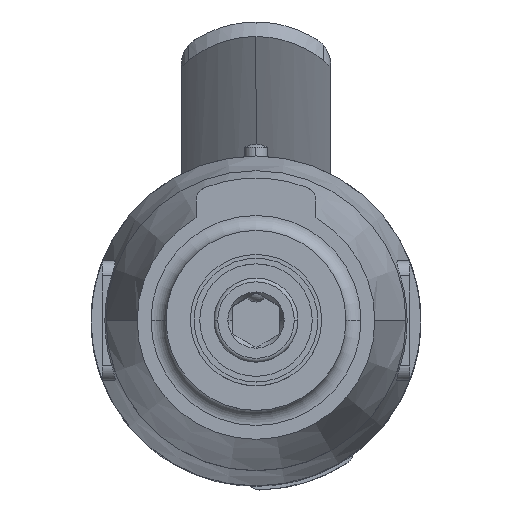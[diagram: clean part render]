
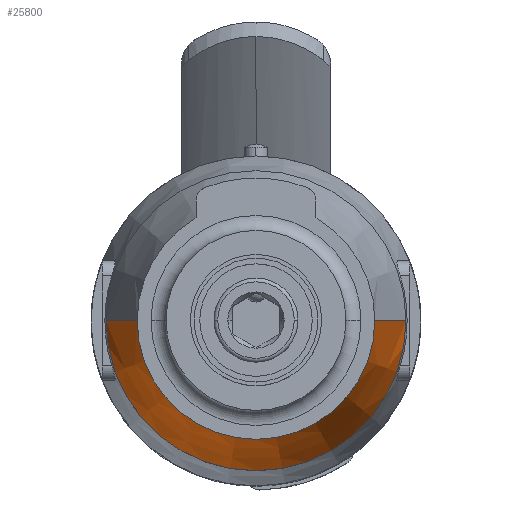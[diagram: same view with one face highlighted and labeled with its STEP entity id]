
A CAD part, top view. The second image highlights one B-rep face of the part: STEP entity #25800.
In plain terms, the highlighted conical face has half-angle 15 degrees and reference radius 20 mm.
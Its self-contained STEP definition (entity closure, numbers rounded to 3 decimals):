
#6569 = CARTESIAN_POINT ( 'NONE',  ( 20., 0., -19.5 ) ) ;
#6575 = CARTESIAN_POINT ( 'NONE',  ( -20., 0., -19.5 ) ) ;
#6720 = CARTESIAN_POINT ( 'NONE',  ( -15.847, 0., -4. ) ) ;
#6721 = DIRECTION ( 'NONE',  ( -0.259, 0., -0.966 ) ) ;
#6722 = VECTOR ( 'NONE', #6721, 1000. ) ;
#6723 = CARTESIAN_POINT ( 'NONE',  ( -20., 0., -19.5 ) ) ;
#6724 = LINE ( 'NONE', #6723, #6722 ) ;
#6725 = DIRECTION ( 'NONE',  ( 0.259, 0., -0.966 ) ) ;
#6726 = VECTOR ( 'NONE', #6725, 1000. ) ;
#6727 = CARTESIAN_POINT ( 'NONE',  ( 20., 0., -19.5 ) ) ;
#6728 = LINE ( 'NONE', #6727, #6726 ) ;
#6730 = CARTESIAN_POINT ( 'NONE',  ( 15.847, 0., -4. ) ) ;
#6967 = DIRECTION ( 'NONE',  ( 1., 0., 0. ) ) ;
#6968 = DIRECTION ( 'NONE',  ( 0., 0., 1. ) ) ;
#6969 = CARTESIAN_POINT ( 'NONE',  ( 0., 0., -4. ) ) ;
#6970 = AXIS2_PLACEMENT_3D ( 'NONE', #6969, #6968, #6967 ) ;
#6971 = CIRCLE ( 'NONE', #6970, 15.847 ) ;
#7062 = DIRECTION ( 'NONE',  ( -1., 0., 0. ) ) ;
#7063 = DIRECTION ( 'NONE',  ( 0., 0., -1. ) ) ;
#7064 = CARTESIAN_POINT ( 'NONE',  ( 0., 0., -19.5 ) ) ;
#7065 = AXIS2_PLACEMENT_3D ( 'NONE', #7064, #7063, #7062 ) ;
#7066 = CONICAL_SURFACE ( 'NONE', #7065, 20., 0.262 ) ;
#7067 = CARTESIAN_POINT ( 'NONE',  ( 0., 0., -19.5 ) ) ;
#7068 = FACE_OUTER_BOUND ( 'NONE', #25801, .T. ) ;
#7123 = DIRECTION ( 'NONE',  ( 1., 0., 0. ) ) ;
#7124 = DIRECTION ( 'NONE',  ( 0., 0., 1. ) ) ;
#7125 = AXIS2_PLACEMENT_3D ( 'NONE', #7067, #7124, #7123 ) ;
#7126 = CIRCLE ( 'NONE', #7125, 20. ) ;
#25562 = VERTEX_POINT ( 'NONE', #6575 ) ;
#25565 = VERTEX_POINT ( 'NONE', #6569 ) ;
#25625 = VERTEX_POINT ( 'NONE', #6730 ) ;
#25628 = EDGE_CURVE ( 'NONE', #25625, #25565, #6728, .T. ) ;
#25631 = EDGE_CURVE ( 'NONE', #25632, #25562, #6724, .T. ) ;
#25632 = VERTEX_POINT ( 'NONE', #6720 ) ;
#25734 = EDGE_CURVE ( 'NONE', #25632, #25625, #6971, .T. ) ;
#25800 = ADVANCED_FACE ( 'NONE', ( #7068 ), #7066, .T. ) ;
#25801 = EDGE_LOOP ( 'NONE', ( #25802, #25803, #25804, #25805 ) ) ;
#25802 = ORIENTED_EDGE ( 'NONE', *, *, #25628, .F. ) ;
#25803 = ORIENTED_EDGE ( 'NONE', *, *, #25734, .F. ) ;
#25804 = ORIENTED_EDGE ( 'NONE', *, *, #25631, .T. ) ;
#25805 = ORIENTED_EDGE ( 'NONE', *, *, #25806, .T. ) ;
#25806 = EDGE_CURVE ( 'NONE', #25562, #25565, #7126, .T. ) ;
